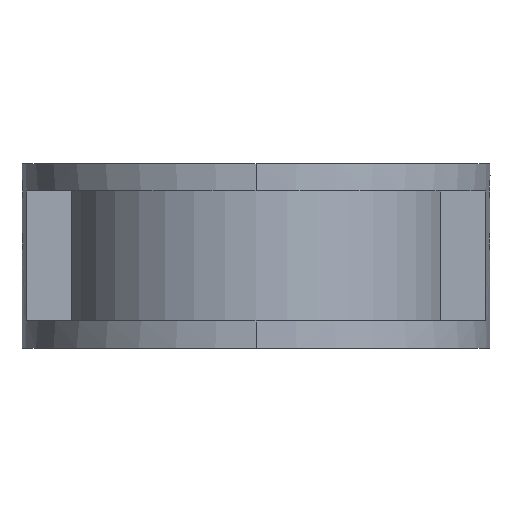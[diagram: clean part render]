
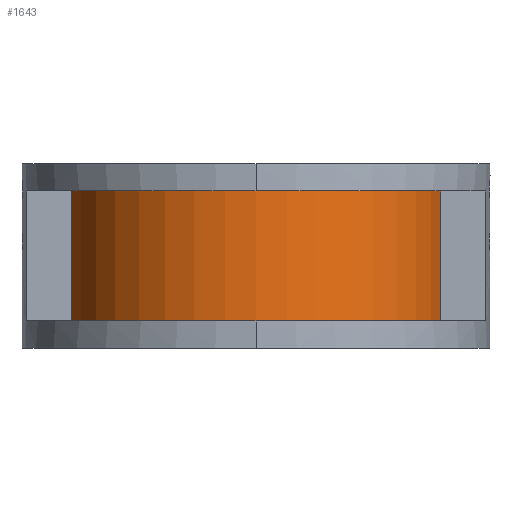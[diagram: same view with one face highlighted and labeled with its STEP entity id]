
A CAD part, left-side view. The second image highlights one B-rep face of the part: STEP entity #1643.
In plain terms, the highlighted cylindrical face has radius 66 mm (diameter 132 mm), a partial arc.
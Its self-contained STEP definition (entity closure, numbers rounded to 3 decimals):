
#347=CARTESIAN_POINT('',(0.,0.,22.5));
#348=DIRECTION('',(0.,0.,1.));
#349=DIRECTION('',(-0.242,0.97,0.));
#350=AXIS2_PLACEMENT_3D('',#347,#348,#349);
#352=DIRECTION('',(0.,0.,1.));
#353=VECTOR('',#352,45.);
#354=CARTESIAN_POINT('',(-16.,-64.031,-22.5));
#355=LINE('',#354,#353);
#356=CARTESIAN_POINT('',(0.,0.,-22.5));
#357=DIRECTION('',(0.,0.,-1.));
#358=DIRECTION('',(-0.242,-0.97,0.));
#359=AXIS2_PLACEMENT_3D('',#356,#357,#358);
#361=DIRECTION('',(0.,0.,1.));
#362=VECTOR('',#361,45.);
#363=CARTESIAN_POINT('',(-16.,64.031,-22.5));
#364=LINE('',#363,#362);
#1119=CARTESIAN_POINT('',(-16.,64.031,-22.5));
#1121=VERTEX_POINT('',#1119);
#1122=CARTESIAN_POINT('',(-16.,-64.031,-22.5));
#1124=VERTEX_POINT('',#1122);
#1132=CARTESIAN_POINT('',(-16.,64.031,22.5));
#1133=VERTEX_POINT('',#1132);
#1138=CARTESIAN_POINT('',(-16.,-64.031,22.5));
#1140=VERTEX_POINT('',#1138);
#1631=CARTESIAN_POINT('',(0.,0.,-24.75));
#1632=DIRECTION('',(0.,0.,1.));
#1633=DIRECTION('',(-1.,0.,0.));
#1634=AXIS2_PLACEMENT_3D('',#1631,#1632,#1633);
#1635=CYLINDRICAL_SURFACE('',#1634,66.);
#1636=ORIENTED_EDGE('',*,*,#1613,.T.);
#1638=ORIENTED_EDGE('',*,*,#1637,.F.);
#1639=ORIENTED_EDGE('',*,*,#1534,.T.);
#1640=ORIENTED_EDGE('',*,*,#1582,.T.);
#1641=EDGE_LOOP('',(#1636,#1638,#1639,#1640));
#1642=FACE_OUTER_BOUND('',#1641,.F.);
#1643=ADVANCED_FACE('',(#1642),#1635,.T.);
#351=CIRCLE('',#350,66.);
#360=CIRCLE('',#359,66.);
#1534=EDGE_CURVE('',#1124,#1121,#360,.T.);
#1582=EDGE_CURVE('',#1121,#1133,#364,.T.);
#1613=EDGE_CURVE('',#1133,#1140,#351,.T.);
#1637=EDGE_CURVE('',#1124,#1140,#355,.T.);
